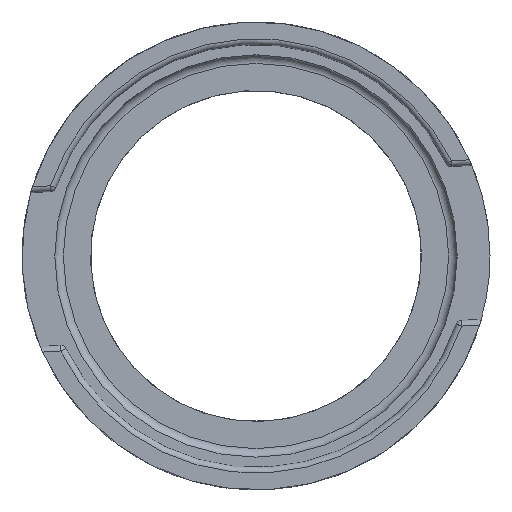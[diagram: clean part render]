
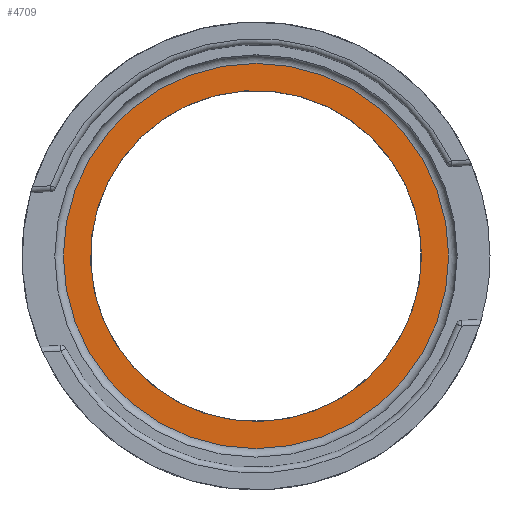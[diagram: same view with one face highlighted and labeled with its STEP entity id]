
A CAD part, top view. The second image highlights one B-rep face of the part: STEP entity #4709.
In plain terms, the highlighted planar face has unit normal (0, 0, 1).
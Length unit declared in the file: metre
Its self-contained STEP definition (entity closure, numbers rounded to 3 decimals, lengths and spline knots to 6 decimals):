
#665=CIRCLE('',#5090,0.03375);
#666=CIRCLE('',#5091,0.029);
#1515=ORIENTED_EDGE('',*,*,#2773,.T.);
#1516=ORIENTED_EDGE('',*,*,#2774,.T.);
#2773=EDGE_CURVE('',#3321,#3321,#665,.F.);
#2774=EDGE_CURVE('',#3322,#3322,#666,.T.);
#3321=VERTEX_POINT('',#11703);
#3322=VERTEX_POINT('',#11705);
#3949=EDGE_LOOP('',(#1515));
#3950=EDGE_LOOP('',(#1516));
#4266=FACE_BOUND('',#3949,.T.);
#4267=FACE_BOUND('',#3950,.T.);
#4472=PLANE('',#5089);
#4709=ADVANCED_FACE('',(#4266,#4267),#4472,.F.);
#5089=AXIS2_PLACEMENT_3D('',#11701,#5676,#5677);
#5090=AXIS2_PLACEMENT_3D('',#11702,#5678,#5679);
#5091=AXIS2_PLACEMENT_3D('',#11704,#5680,#5681);
#5676=DIRECTION('',(0.,0.,-1.));
#5677=DIRECTION('',(0.819,0.574,0.));
#5678=DIRECTION('',(0.,0.,-1.));
#5679=DIRECTION('',(1.,0.,0.));
#5680=DIRECTION('',(0.,0.,-1.));
#5681=DIRECTION('',(1.,0.,0.));
#11701=CARTESIAN_POINT('',(0.,0.,0.0758));
#11702=CARTESIAN_POINT('',(0.,0.,0.0758));
#11703=CARTESIAN_POINT('',(0.03375,0.,0.0758));
#11704=CARTESIAN_POINT('',(0.,0.,0.0758));
#11705=CARTESIAN_POINT('',(0.029,0.,0.0758));
